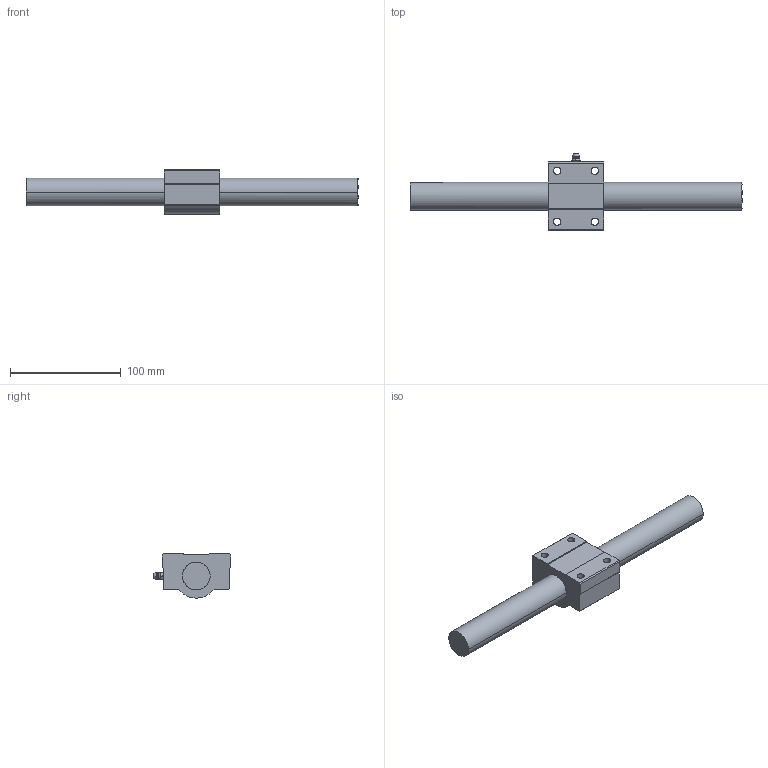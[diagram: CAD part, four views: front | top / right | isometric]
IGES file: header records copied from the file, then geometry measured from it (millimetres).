
Global section: file name: No Iges File Name specified; native system: AutoDesk Inventor R10; preprocessor: AutoDesk Inventor Iges Exporter R10; author: No Author specified; organization: No Organization specified; date: 20101224.145730; units: millimetre
Bounding box: 300 x 69.8 x 40 mm (x, y, z)
Surface area: 43794.5 mm2 (no closed solid volume)
Topology: 0 solids, 0 shells, 78 faces, 474 edges, 470 vertices
Faces by surface type: bspline 78
